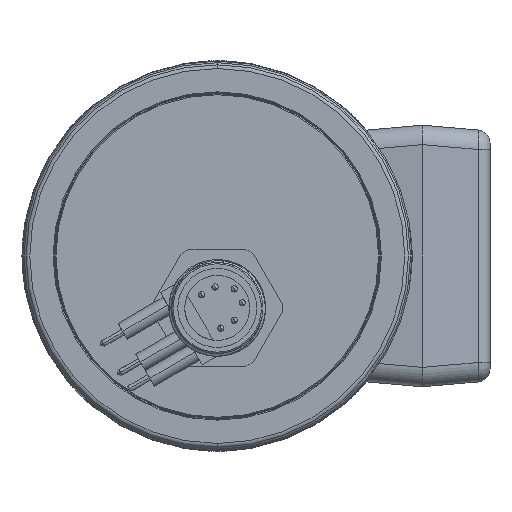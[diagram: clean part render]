
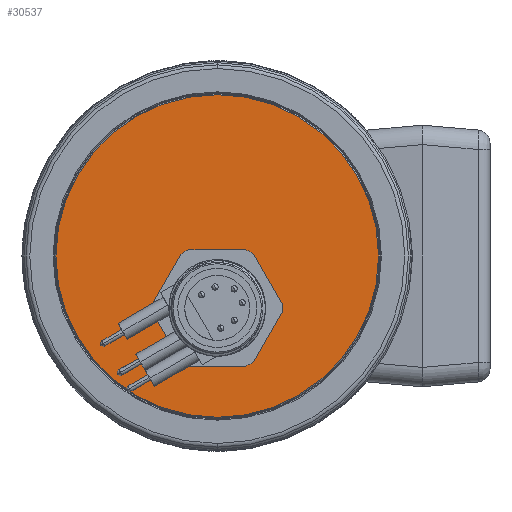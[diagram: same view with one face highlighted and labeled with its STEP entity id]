
A CAD part, left-side view. The second image highlights one B-rep face of the part: STEP entity #30537.
In plain terms, the highlighted planar face has unit normal (-1, 0, 0).
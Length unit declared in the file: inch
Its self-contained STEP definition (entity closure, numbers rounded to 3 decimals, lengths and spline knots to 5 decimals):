
#1223 = VERTEX_POINT ( 'NONE', #27342 ) ;
#1989 = PLANE ( 'NONE',  #8539 ) ;
#2144 = AXIS2_PLACEMENT_3D ( 'NONE', #34045, #14151, #37275 ) ;
#2148 = AXIS2_PLACEMENT_3D ( 'NONE', #4114, #27556, #7456 ) ;
#2151 = AXIS2_PLACEMENT_3D ( 'NONE', #37126, #17371, #40263 ) ;
#2287 = AXIS2_PLACEMENT_3D ( 'NONE', #16929, #39862, #20419 ) ;
#2566 = CARTESIAN_POINT ( 'NONE',  ( -0.452, 0., 1.5525 ) ) ;
#3915 = EDGE_LOOP ( 'NONE', ( #28123, #22393 ) ) ;
#4114 = CARTESIAN_POINT ( 'NONE',  ( -0.452, 0., -0.5 ) ) ;
#7456 = DIRECTION ( 'NONE',  ( 0., 0., 1. ) ) ;
#8061 = FACE_BOUND ( 'NONE', #38078, .T. ) ;
#8539 = AXIS2_PLACEMENT_3D ( 'NONE', #38556, #18960, #41613 ) ;
#10192 = VERTEX_POINT ( 'NONE', #33381 ) ;
#11521 = CIRCLE ( 'NONE', #2151, 1.5525 ) ;
#13914 = ORIENTED_EDGE ( 'NONE', *, *, #41920, .T. ) ;
#14151 = DIRECTION ( 'NONE',  ( 1., 0., 0. ) ) ;
#16929 = CARTESIAN_POINT ( 'NONE',  ( -0.452, 0., 0. ) ) ;
#17371 = DIRECTION ( 'NONE',  ( -1., 0., 0. ) ) ;
#18960 = DIRECTION ( 'NONE',  ( -1., 0., 0. ) ) ;
#20419 = DIRECTION ( 'NONE',  ( 0., 0., 1. ) ) ;
#20532 = CIRCLE ( 'NONE', #2148, 0.227 ) ;
#20698 = ORIENTED_EDGE ( 'NONE', *, *, #41914, .T. ) ;
#22393 = ORIENTED_EDGE ( 'NONE', *, *, #41747, .T. ) ;
#25932 = VERTEX_POINT ( 'NONE', #39939 ) ;
#27342 = CARTESIAN_POINT ( 'NONE',  ( -0.452, 0., -1.5525 ) ) ;
#27556 = DIRECTION ( 'NONE',  ( 1., 0., 0. ) ) ;
#28123 = ORIENTED_EDGE ( 'NONE', *, *, #41872, .T. ) ;
#29286 = VERTEX_POINT ( 'NONE', #2566 ) ;
#30537 = ADVANCED_FACE ( 'NONE', ( #8061, #41913 ), #1989, .T. ) ;
#33381 = CARTESIAN_POINT ( 'NONE',  ( -0.452, 0., -0.727 ) ) ;
#34045 = CARTESIAN_POINT ( 'NONE',  ( -0.452, 0., -0.5 ) ) ;
#36899 = CIRCLE ( 'NONE', #2144, 0.227 ) ;
#37126 = CARTESIAN_POINT ( 'NONE',  ( -0.452, 0., 0. ) ) ;
#37275 = DIRECTION ( 'NONE',  ( 0., 0., 1. ) ) ;
#38078 = EDGE_LOOP ( 'NONE', ( #20698, #13914 ) ) ;
#38556 = CARTESIAN_POINT ( 'NONE',  ( -0.452, 0., 0. ) ) ;
#39835 = CIRCLE ( 'NONE', #2287, 1.5525 ) ;
#39862 = DIRECTION ( 'NONE',  ( -1., 0., 0. ) ) ;
#39939 = CARTESIAN_POINT ( 'NONE',  ( -0.452, 0., -0.273 ) ) ;
#40263 = DIRECTION ( 'NONE',  ( 0., 0., 1. ) ) ;
#41613 = DIRECTION ( 'NONE',  ( 0., 0., 1. ) ) ;
#41747 = EDGE_CURVE ( 'NONE', #29286, #1223, #39835, .T. ) ;
#41872 = EDGE_CURVE ( 'NONE', #1223, #29286, #11521, .T. ) ;
#41913 = FACE_OUTER_BOUND ( 'NONE', #3915, .T. ) ;
#41914 = EDGE_CURVE ( 'NONE', #25932, #10192, #20532, .T. ) ;
#41920 = EDGE_CURVE ( 'NONE', #10192, #25932, #36899, .T. ) ;
